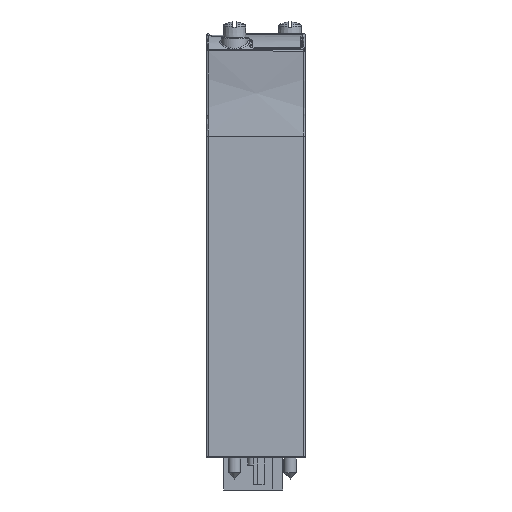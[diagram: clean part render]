
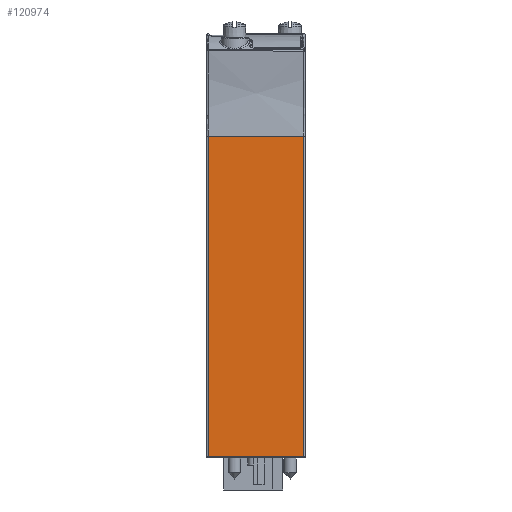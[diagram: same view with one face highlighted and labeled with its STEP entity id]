
A CAD part, front view. The second image highlights one B-rep face of the part: STEP entity #120974.
In plain terms, the highlighted planar face has unit normal (-0.009, -1, 0).
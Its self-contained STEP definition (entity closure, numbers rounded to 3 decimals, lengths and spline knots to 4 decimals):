
#4154=DIRECTION('',(0.,0.,1.));
#4155=VECTOR('',#4154,2.502);
#4156=CARTESIAN_POINT('',(0.0099,-2.0438,0.01));
#4157=LINE('',#4156,#4155);
#43695=CARTESIAN_POINT('',(0.0099,-2.0438,
2.512));
#43696=CARTESIAN_POINT('',(0.0933,-2.0445,
2.512));
#43697=CARTESIAN_POINT('',(0.26,-2.046,
2.5122));
#43698=CARTESIAN_POINT('',(0.5096,-2.0482,
2.5123));
#43699=CARTESIAN_POINT('',(0.6759,-2.0496,
2.5125));
#43700=CARTESIAN_POINT('',(0.7589,-2.0503,
2.5125));
#43702=DIRECTION('',(0.,0.,-1.));
#43703=VECTOR('',#43702,2.5025);
#43704=CARTESIAN_POINT('',(0.7589,-2.0503,
2.5125));
#43705=LINE('',#43704,#43703);
#43729=DIRECTION('',(-1.,0.009,0.));
#43730=VECTOR('',#43729,0.749);
#43731=CARTESIAN_POINT('',(0.7589,-2.0503,0.01));
#43732=LINE('',#43731,#43730);
#53273=CARTESIAN_POINT('',(0.0099,-2.0438,0.01));
#53274=CARTESIAN_POINT('',(0.0099,-2.0438,
2.512));
#53275=VERTEX_POINT('',#53273);
#53276=VERTEX_POINT('',#53274);
#53281=CARTESIAN_POINT('',(0.7589,-2.0503,
2.5125));
#53282=CARTESIAN_POINT('',(0.7589,-2.0503,0.01));
#53283=VERTEX_POINT('',#53281);
#53284=VERTEX_POINT('',#53282);
#120961=CARTESIAN_POINT('',(0.719,-2.05,4.34));
#120962=DIRECTION('',(-0.009,-1.,0.));
#120963=DIRECTION('',(0.,0.,-1.));
#120964=AXIS2_PLACEMENT_3D('',#120961,#120962,#120963);
#120965=PLANE('',#120964);
#120966=ORIENTED_EDGE('',*,*,#66723,.T.);
#120967=ORIENTED_EDGE('',*,*,#68275,.T.);
#120969=ORIENTED_EDGE('',*,*,#120968,.T.);
#120971=ORIENTED_EDGE('',*,*,#120970,.T.);
#120972=EDGE_LOOP('',(#120966,#120967,#120969,#120971));
#120973=FACE_OUTER_BOUND('',#120972,.F.);
#120974=ADVANCED_FACE('',(#120973),#120965,.T.);
#43701=B_SPLINE_CURVE_WITH_KNOTS('',3,(#43695,#43696,#43697,#43698,#43699,
#43700),.UNSPECIFIED.,.F.,.F.,(4,1,1,4),(0.,0.3333,
0.6667,1.),.UNSPECIFIED.);
#66723=EDGE_CURVE('',#53275,#53276,#4157,.T.);
#68275=EDGE_CURVE('',#53276,#53283,#43701,.T.);
#120968=EDGE_CURVE('',#53283,#53284,#43705,.T.);
#120970=EDGE_CURVE('',#53284,#53275,#43732,.T.);
